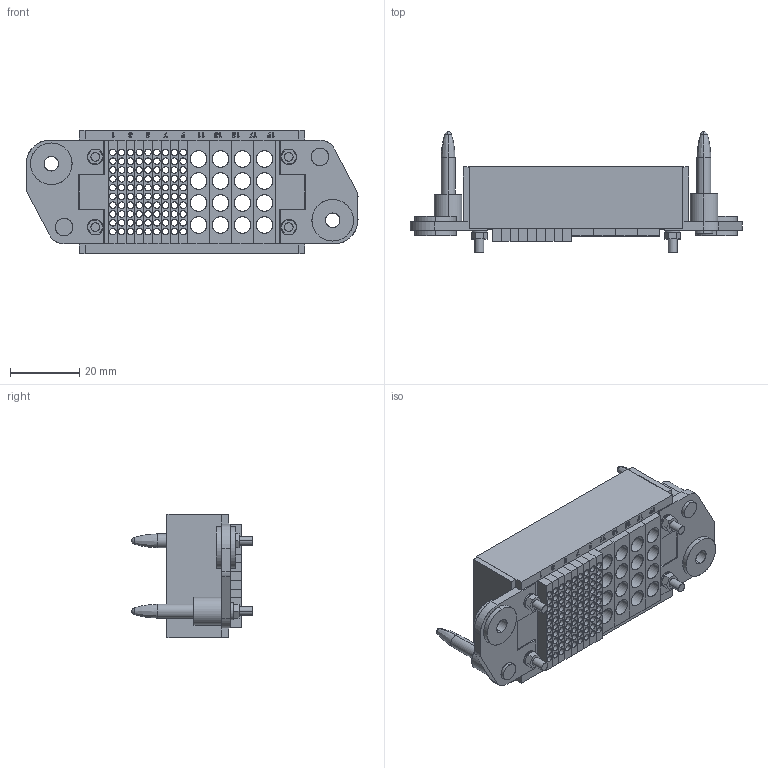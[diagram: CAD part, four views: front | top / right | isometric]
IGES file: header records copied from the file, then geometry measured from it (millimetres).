
Start section: SolidWorks IGES file using analytic representation for surfaces
Global section: file name: \\PSSILO\catalogs\HYPERTRONICS\NPH\cache\NP1ST_M02131132387055.igs; native system: SolidWorks 2017; preprocessor: SolidWorks 2017; author: partstream; date: 170213.113400; units: millimetre
Bounding box: 95.88 x 34.85 x 35.74 mm (x, y, z)
Surface area: 39165.3 mm2 (no closed solid volume)
Topology: 0 solids, 0 shells, 1089 faces, 15472 edges, 15466 vertices
Faces by surface type: bspline 805, revolution 284
